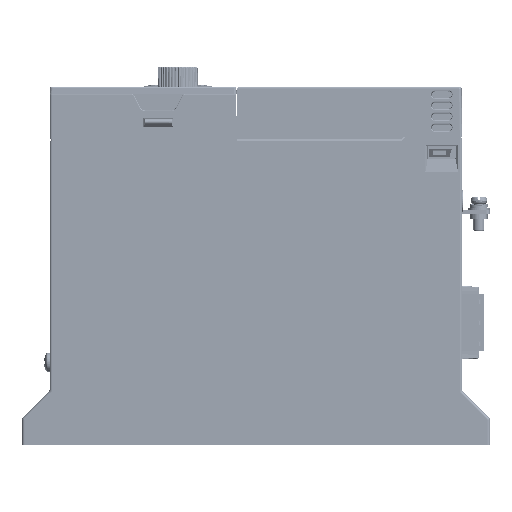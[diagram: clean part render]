
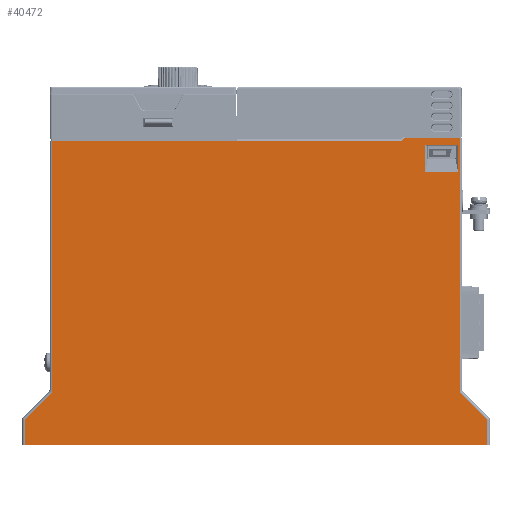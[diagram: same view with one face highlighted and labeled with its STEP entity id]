
A CAD part, left-side view. The second image highlights one B-rep face of the part: STEP entity #40472.
In plain terms, the highlighted planar face has unit normal (-1, 0, 0).
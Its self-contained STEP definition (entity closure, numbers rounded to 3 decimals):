
#5670=DIRECTION('',(0.,-1.,0.));
#5671=VECTOR('',#5670,168.);
#5672=CARTESIAN_POINT('',(0.,9.,-130.2));
#5673=LINE('',#5672,#5671);
#8249=DIRECTION('',(0.,1.,0.));
#8250=VECTOR('',#8249,12.);
#8251=CARTESIAN_POINT('',(0.,-148.5,-21.2));
#8252=LINE('',#8251,#8250);
#8256=DIRECTION('',(0.,1.,0.));
#8257=VECTOR('',#8256,12.);
#8258=CARTESIAN_POINT('',(0.,-148.5,-31.));
#8259=LINE('',#8258,#8257);
#8344=DIRECTION('',(0.,1.,0.));
#8345=VECTOR('',#8344,20.);
#8346=CARTESIAN_POINT('',(0.,-149.,-18.5));
#8347=LINE('',#8346,#8345);
#8351=DIRECTION('',(0.,0.,-1.));
#8352=VECTOR('',#8351,91.586);
#8353=CARTESIAN_POINT('',(0.,-149.,-18.5));
#8354=LINE('',#8353,#8352);
#8358=CARTESIAN_POINT('',(0.,-151.,-110.086));
#8359=DIRECTION('',(-1.,0.,0.));
#8360=DIRECTION('',(0.,1.,0.));
#8361=AXIS2_PLACEMENT_3D('',#8358,#8359,#8360);
#8366=DIRECTION('',(0.,-0.707,-0.707));
#8367=VECTOR('',#8366,13.314);
#8368=CARTESIAN_POINT('',(0.,-149.586,-111.5));
#8369=LINE('',#8368,#8367);
#8373=DIRECTION('',(0.,0.,-1.));
#8374=VECTOR('',#8373,9.286);
#8375=CARTESIAN_POINT('',(0.,-159.,-120.914));
#8376=LINE('',#8375,#8374);
#8380=DIRECTION('',(0.,0.,1.));
#8381=VECTOR('',#8380,9.286);
#8382=CARTESIAN_POINT('',(0.,9.,-130.2));
#8383=LINE('',#8382,#8381);
#8387=DIRECTION('',(0.,-0.707,0.707));
#8388=VECTOR('',#8387,13.314);
#8389=CARTESIAN_POINT('',(0.,9.,-120.914));
#8390=LINE('',#8389,#8388);
#8394=CARTESIAN_POINT('',(0.,1.,-110.086));
#8395=DIRECTION('',(-1.,0.,0.));
#8396=DIRECTION('',(0.,-0.707,-0.707));
#8397=AXIS2_PLACEMENT_3D('',#8394,#8395,#8396);
#8402=DIRECTION('',(0.,0.,1.));
#8403=VECTOR('',#8402,90.586);
#8404=CARTESIAN_POINT('',(0.,-1.,-110.086));
#8405=LINE('',#8404,#8403);
#8409=DIRECTION('',(0.,0.707,-0.707));
#8410=VECTOR('',#8409,1.414);
#8411=CARTESIAN_POINT('',(0.,-129.,-18.5));
#8412=LINE('',#8411,#8410);
#11264=DIRECTION('',(0.,0.,1.));
#11265=VECTOR('',#11264,9.8);
#11266=CARTESIAN_POINT('',(0.,-136.5,-31.));
#11267=LINE('',#11266,#11265);
#21946=DIRECTION('',(0.,1.,0.));
#21947=VECTOR('',#21946,127.);
#21948=CARTESIAN_POINT('',(0.,-128.,-19.5));
#21949=LINE('',#21948,#21947);
#25357=DIRECTION('',(0.,0.,-1.));
#25358=VECTOR('',#25357,9.8);
#25359=CARTESIAN_POINT('',(0.,-148.5,-21.2));
#25360=LINE('',#25359,#25358);
#29939=CARTESIAN_POINT('',(0.,-148.5,-31.));
#29940=CARTESIAN_POINT('',(0.,-136.5,-31.));
#29941=VERTEX_POINT('',#29939);
#29942=VERTEX_POINT('',#29940);
#29948=CARTESIAN_POINT('',(0.,-128.,-19.5));
#29950=VERTEX_POINT('',#29948);
#30359=CARTESIAN_POINT('',(0.,-148.5,-21.2));
#30360=CARTESIAN_POINT('',(0.,-136.5,-21.2));
#30361=VERTEX_POINT('',#30359);
#30362=VERTEX_POINT('',#30360);
#31236=CARTESIAN_POINT('',(0.,-159.,-130.2));
#31238=VERTEX_POINT('',#31236);
#31239=CARTESIAN_POINT('',(0.,-159.,-120.914));
#31240=VERTEX_POINT('',#31239);
#31251=CARTESIAN_POINT('',(0.,9.,-130.2));
#31252=CARTESIAN_POINT('',(0.,9.,-120.914));
#31253=VERTEX_POINT('',#31251);
#31254=VERTEX_POINT('',#31252);
#31317=CARTESIAN_POINT('',(0.,-0.414,-111.5));
#31318=CARTESIAN_POINT('',(0.,-1.,-110.086));
#31319=VERTEX_POINT('',#31317);
#31320=VERTEX_POINT('',#31318);
#31331=CARTESIAN_POINT('',(0.,-149.586,-111.5));
#31332=VERTEX_POINT('',#31331);
#31333=CARTESIAN_POINT('',(0.,-149.,-110.086));
#31334=VERTEX_POINT('',#31333);
#32105=CARTESIAN_POINT('',(0.,-1.,-19.5));
#32106=VERTEX_POINT('',#32105);
#32117=CARTESIAN_POINT('',(0.,-149.,-18.5));
#32118=CARTESIAN_POINT('',(0.,-129.,-18.5));
#32119=VERTEX_POINT('',#32117);
#32120=VERTEX_POINT('',#32118);
#40432=CARTESIAN_POINT('',(0.,0.,0.));
#40433=DIRECTION('',(-1.,0.,0.));
#40434=DIRECTION('',(0.,-1.,0.));
#40435=AXIS2_PLACEMENT_3D('',#40432,#40433,#40434);
#40436=PLANE('',#40435);
#40438=ORIENTED_EDGE('',*,*,#40437,.F.);
#40440=ORIENTED_EDGE('',*,*,#40439,.T.);
#40442=ORIENTED_EDGE('',*,*,#40441,.T.);
#40444=ORIENTED_EDGE('',*,*,#40443,.T.);
#40446=ORIENTED_EDGE('',*,*,#40445,.T.);
#40447=ORIENTED_EDGE('',*,*,#38397,.F.);
#40449=ORIENTED_EDGE('',*,*,#40448,.T.);
#40451=ORIENTED_EDGE('',*,*,#40450,.T.);
#40453=ORIENTED_EDGE('',*,*,#40452,.T.);
#40455=ORIENTED_EDGE('',*,*,#40454,.T.);
#40457=ORIENTED_EDGE('',*,*,#40456,.F.);
#40459=ORIENTED_EDGE('',*,*,#40458,.F.);
#40460=EDGE_LOOP('',(#40438,#40440,#40442,#40444,#40446,#40447,#40449,#40451,
#40453,#40455,#40457,#40459));
#40461=FACE_OUTER_BOUND('',#40460,.F.);
#40463=ORIENTED_EDGE('',*,*,#40462,.T.);
#40465=ORIENTED_EDGE('',*,*,#40464,.F.);
#40467=ORIENTED_EDGE('',*,*,#40466,.F.);
#40469=ORIENTED_EDGE('',*,*,#40468,.F.);
#40470=EDGE_LOOP('',(#40463,#40465,#40467,#40469));
#40471=FACE_BOUND('',#40470,.F.);
#40472=ADVANCED_FACE('',(#40461,#40471),#40436,.T.);
#8362=CIRCLE('',#8361,2.);
#8398=CIRCLE('',#8397,2.);
#38397=EDGE_CURVE('',#31253,#31238,#5673,.T.);
#40437=EDGE_CURVE('',#32119,#32120,#8347,.T.);
#40439=EDGE_CURVE('',#32119,#31334,#8354,.T.);
#40441=EDGE_CURVE('',#31334,#31332,#8362,.T.);
#40443=EDGE_CURVE('',#31332,#31240,#8369,.T.);
#40445=EDGE_CURVE('',#31240,#31238,#8376,.T.);
#40448=EDGE_CURVE('',#31253,#31254,#8383,.T.);
#40450=EDGE_CURVE('',#31254,#31319,#8390,.T.);
#40452=EDGE_CURVE('',#31319,#31320,#8398,.T.);
#40454=EDGE_CURVE('',#31320,#32106,#8405,.T.);
#40456=EDGE_CURVE('',#29950,#32106,#21949,.T.);
#40458=EDGE_CURVE('',#32120,#29950,#8412,.T.);
#40462=EDGE_CURVE('',#30361,#30362,#8252,.T.);
#40464=EDGE_CURVE('',#29942,#30362,#11267,.T.);
#40466=EDGE_CURVE('',#29941,#29942,#8259,.T.);
#40468=EDGE_CURVE('',#30361,#29941,#25360,.T.);
